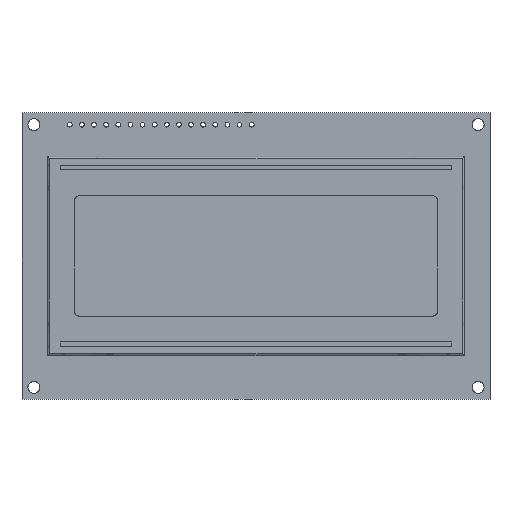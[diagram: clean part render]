
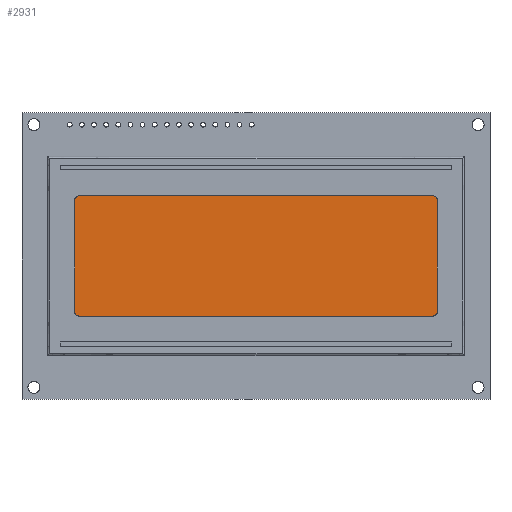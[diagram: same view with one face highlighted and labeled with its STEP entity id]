
A CAD part, top view. The second image highlights one B-rep face of the part: STEP entity #2931.
In plain terms, the highlighted free-form (B-spline) face has degree [1, 1] with [2, 2] control points.
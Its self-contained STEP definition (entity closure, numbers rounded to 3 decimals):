
#86 = CARTESIAN_POINT ( 'NONE',  ( 9.48, -16.896, 10.4 ) ) ;
#91 = EDGE_CURVE ( 'NONE', #1542, #4388, #422, .T. ) ;
#105 = EDGE_LOOP ( 'NONE', ( #3026, #2097, #3870, #715, #1607, #282, #1529, #2939 ) ) ;
#180 = B_SPLINE_CURVE_WITH_KNOTS ( 'NONE', 1,
 ( #2358, #225 ),
 .UNSPECIFIED., .F., .F.,
 ( 2, 2 ),
 ( 0., 1. ),
 .UNSPECIFIED. ) ;
#200 = CARTESIAN_POINT ( 'NONE',  ( 11., -18.4, 10.4 ) ) ;
#210 = CARTESIAN_POINT ( 'NONE',  ( 86.586, -42.6, 10.4 ) ) ;
#225 = CARTESIAN_POINT ( 'NONE',  ( 86., -42.6, 10.4 ) ) ;
#282 = ORIENTED_EDGE ( 'NONE', *, *, #1847, .T. ) ;
#329 = CARTESIAN_POINT ( 'NONE',  ( 86., -17.4, 10.4 ) ) ;
#371 = VERTEX_POINT ( 'NONE', #4403 ) ;
#422 =( BOUNDED_CURVE ( )  B_SPLINE_CURVE ( 3, ( #329, #1667, #500, #2837 ),
 .UNSPECIFIED., .F., .F. ) 
 B_SPLINE_CURVE_WITH_KNOTS ( ( 4, 4 ),
 ( 0., 1.571 ),
 .UNSPECIFIED. ) 
 CURVE ( )  GEOMETRIC_REPRESENTATION_ITEM ( )  RATIONAL_B_SPLINE_CURVE ( ( 1., 0.805, 0.805, 1. ) ) 
 REPRESENTATION_ITEM ( '' )  );
#458 = CARTESIAN_POINT ( 'NONE',  ( 88.52, -43.104, 10.4 ) ) ;
#500 = CARTESIAN_POINT ( 'NONE',  ( 87., -17.814, 10.4 ) ) ;
#568 = CARTESIAN_POINT ( 'NONE',  ( 87., -41.6, 10.4 ) ) ;
#715 = ORIENTED_EDGE ( 'NONE', *, *, #1446, .T. ) ;
#948 = CARTESIAN_POINT ( 'NONE',  ( 12., -17.4, 10.4 ) ) ;
#1029 = CARTESIAN_POINT ( 'NONE',  ( 87., -41.6, 10.4 ) ) ;
#1144 = CARTESIAN_POINT ( 'NONE',  ( 86., -17.4, 10.4 ) ) ;
#1211 = CARTESIAN_POINT ( 'NONE',  ( 87., -41.6, 10.4 ) ) ;
#1214 = CARTESIAN_POINT ( 'NONE',  ( 86., -17.4, 10.4 ) ) ;
#1259 = CARTESIAN_POINT ( 'NONE',  ( 11., -17.814, 10.4 ) ) ;
#1276 = B_SPLINE_CURVE_WITH_KNOTS ( 'NONE', 1,
 ( #1029, #3858 ),
 .UNSPECIFIED., .F., .F.,
 ( 2, 2 ),
 ( 0., 1. ),
 .UNSPECIFIED. ) ;
#1349 = EDGE_CURVE ( 'NONE', #371, #2442, #2376, .T. ) ;
#1353 = EDGE_CURVE ( 'NONE', #4365, #2821, #1543, .T. ) ;
#1446 = EDGE_CURVE ( 'NONE', #371, #2821, #4352, .T. ) ;
#1529 = ORIENTED_EDGE ( 'NONE', *, *, #1824, .F. ) ;
#1542 = VERTEX_POINT ( 'NONE', #1214 ) ;
#1543 =( BOUNDED_CURVE ( )  B_SPLINE_CURVE ( 3, ( #4132, #1635, #4492, #2366 ),
 .UNSPECIFIED., .F., .F. ) 
 B_SPLINE_CURVE_WITH_KNOTS ( ( 4, 4 ),
 ( 0., 1.571 ),
 .UNSPECIFIED. ) 
 CURVE ( )  GEOMETRIC_REPRESENTATION_ITEM ( )  RATIONAL_B_SPLINE_CURVE ( ( 1., 0.805, 0.805, 1. ) ) 
 REPRESENTATION_ITEM ( '' )  );
#1607 = ORIENTED_EDGE ( 'NONE', *, *, #1353, .F. ) ;
#1635 = CARTESIAN_POINT ( 'NONE',  ( 11.414, -42.6, 10.4 ) ) ;
#1667 = CARTESIAN_POINT ( 'NONE',  ( 86.586, -17.4, 10.4 ) ) ;
#1824 = EDGE_CURVE ( 'NONE', #3708, #3447, #3001, .T. ) ;
#1830 = FACE_OUTER_BOUND ( 'NONE', #105, .T. ) ;
#1847 = EDGE_CURVE ( 'NONE', #4365, #3447, #180, .T. ) ;
#1902 = EDGE_CURVE ( 'NONE', #3708, #4388, #1276, .T. ) ;
#2009 = CARTESIAN_POINT ( 'NONE',  ( 87., -18.4, 10.4 ) ) ;
#2097 = ORIENTED_EDGE ( 'NONE', *, *, #4508, .T. ) ;
#2222 = CARTESIAN_POINT ( 'NONE',  ( 12., -17.4, 10.4 ) ) ;
#2358 = CARTESIAN_POINT ( 'NONE',  ( 12., -42.6, 10.4 ) ) ;
#2366 = CARTESIAN_POINT ( 'NONE',  ( 11., -41.6, 10.4 ) ) ;
#2376 =( BOUNDED_CURVE ( )  B_SPLINE_CURVE ( 3, ( #200, #1259, #3072, #948 ),
 .UNSPECIFIED., .F., .F. ) 
 B_SPLINE_CURVE_WITH_KNOTS ( ( 4, 4 ),
 ( 0., 1.571 ),
 .UNSPECIFIED. ) 
 CURVE ( )  GEOMETRIC_REPRESENTATION_ITEM ( )  RATIONAL_B_SPLINE_CURVE ( ( 1., 0.805, 0.805, 1. ) ) 
 REPRESENTATION_ITEM ( '' )  );
#2442 = VERTEX_POINT ( 'NONE', #4290 ) ;
#2528 = CARTESIAN_POINT ( 'NONE',  ( 11., -41.6, 10.4 ) ) ;
#2716 = CARTESIAN_POINT ( 'NONE',  ( 86., -42.6, 10.4 ) ) ;
#2725 = CARTESIAN_POINT ( 'NONE',  ( 12., -42.6, 10.4 ) ) ;
#2821 = VERTEX_POINT ( 'NONE', #2528 ) ;
#2837 = CARTESIAN_POINT ( 'NONE',  ( 87., -18.4, 10.4 ) ) ;
#2931 = ADVANCED_FACE ( 'NONE', ( #1830 ), #3379, .T. ) ;
#2939 = ORIENTED_EDGE ( 'NONE', *, *, #1902, .T. ) ;
#2958 = CARTESIAN_POINT ( 'NONE',  ( 88.52, -16.896, 10.4 ) ) ;
#3001 =( BOUNDED_CURVE ( )  B_SPLINE_CURVE ( 3, ( #568, #4122, #210, #2716 ),
 .UNSPECIFIED., .F., .F. ) 
 B_SPLINE_CURVE_WITH_KNOTS ( ( 4, 4 ),
 ( 0., 1.571 ),
 .UNSPECIFIED. ) 
 CURVE ( )  GEOMETRIC_REPRESENTATION_ITEM ( )  RATIONAL_B_SPLINE_CURVE ( ( 1., 0.805, 0.805, 1. ) ) 
 REPRESENTATION_ITEM ( '' )  );
#3026 = ORIENTED_EDGE ( 'NONE', *, *, #91, .F. ) ;
#3072 = CARTESIAN_POINT ( 'NONE',  ( 11.414, -17.4, 10.4 ) ) ;
#3379 = B_SPLINE_SURFACE_WITH_KNOTS ( 'NONE', 1, 1, ( 
 ( #3999, #86 ),
 ( #458, #2958 ) ),
 .UNSPECIFIED., .F., .F., .F.,
 ( 2, 2 ),
 ( 2, 2 ),
 ( 9.48, 88.52 ),
 ( -43.104, -16.896 ),
 .UNSPECIFIED. ) ;
#3447 = VERTEX_POINT ( 'NONE', #4197 ) ;
#3634 = B_SPLINE_CURVE_WITH_KNOTS ( 'NONE', 1,
 ( #1144, #2222 ),
 .UNSPECIFIED., .F., .F.,
 ( 2, 2 ),
 ( 0., 1. ),
 .UNSPECIFIED. ) ;
#3708 = VERTEX_POINT ( 'NONE', #1211 ) ;
#3810 = CARTESIAN_POINT ( 'NONE',  ( 11., -18.4, 10.4 ) ) ;
#3858 = CARTESIAN_POINT ( 'NONE',  ( 87., -18.4, 10.4 ) ) ;
#3870 = ORIENTED_EDGE ( 'NONE', *, *, #1349, .F. ) ;
#3999 = CARTESIAN_POINT ( 'NONE',  ( 9.48, -43.104, 10.4 ) ) ;
#4122 = CARTESIAN_POINT ( 'NONE',  ( 87., -42.186, 10.4 ) ) ;
#4132 = CARTESIAN_POINT ( 'NONE',  ( 12., -42.6, 10.4 ) ) ;
#4197 = CARTESIAN_POINT ( 'NONE',  ( 86., -42.6, 10.4 ) ) ;
#4290 = CARTESIAN_POINT ( 'NONE',  ( 12., -17.4, 10.4 ) ) ;
#4352 = B_SPLINE_CURVE_WITH_KNOTS ( 'NONE', 1,
 ( #3810, #4534 ),
 .UNSPECIFIED., .F., .F.,
 ( 2, 2 ),
 ( 0., 1. ),
 .UNSPECIFIED. ) ;
#4365 = VERTEX_POINT ( 'NONE', #2725 ) ;
#4388 = VERTEX_POINT ( 'NONE', #2009 ) ;
#4403 = CARTESIAN_POINT ( 'NONE',  ( 11., -18.4, 10.4 ) ) ;
#4492 = CARTESIAN_POINT ( 'NONE',  ( 11., -42.186, 10.4 ) ) ;
#4508 = EDGE_CURVE ( 'NONE', #1542, #2442, #3634, .T. ) ;
#4534 = CARTESIAN_POINT ( 'NONE',  ( 11., -41.6, 10.4 ) ) ;
